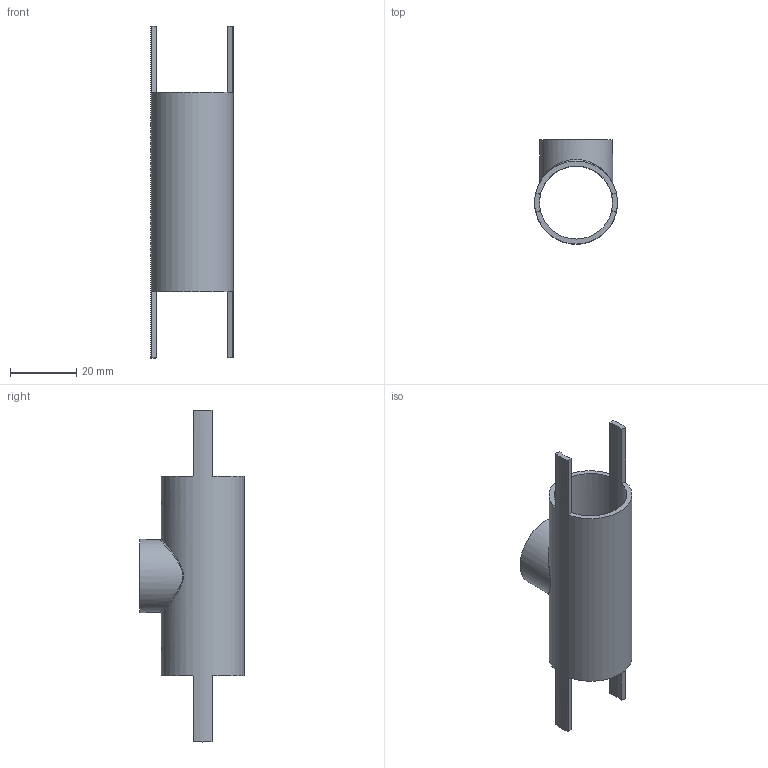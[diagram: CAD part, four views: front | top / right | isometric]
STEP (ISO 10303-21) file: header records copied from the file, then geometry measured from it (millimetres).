
FILE_DESCRIPTION(/* description */ (''),/* implementation_level */ '2;1');
FILE_NAME(/* name */ 'S:\UFFICIO TECNICO 2019\PRODOTTI ROTALIANA\SOUVLAKI\CONFIGURATORE\FILES X CONFIGURATORE\ipt INVENTOR\ASVGP_connettore passante.stp',/* time_stamp */ '2024-03-13T10:16:47+01:00',/* author */ ('mtesta'),/* organization */ (''),/* preprocessor_version */ 'ST-DEVELOPER v18.1',/* originating_system */ 'Autodesk Inventor 2021',/* authorisation */ '');
FILE_SCHEMA (('AUTOMOTIVE_DESIGN { 1 0 10303 214 3 1 1 }'));
Length unit declared in the file: millimetre
Products named in the file (1): A2620
Bounding box: 24.97 x 31.5 x 100 mm (x, y, z)
Volume: 7659.1 mm3; surface area: 16163.5 mm2
Topology: 1 solids, 2 shells, 31 faces, 105 edges, 75 vertices
Faces by surface type: bspline 16, plane 9, cylinder 6
Full cylindrical faces by diameter (mm): 19 x1, 22 x3, 25 x2
Entity records: 2181 total; most frequent: CARTESIAN_POINT 1310, ORIENTED_EDGE 189, DIRECTION 126, EDGE_CURVE 105, VERTEX_POINT 75, AXIS2_PLACEMENT_3D 51, EDGE_LOOP 41, CIRCLE 35
